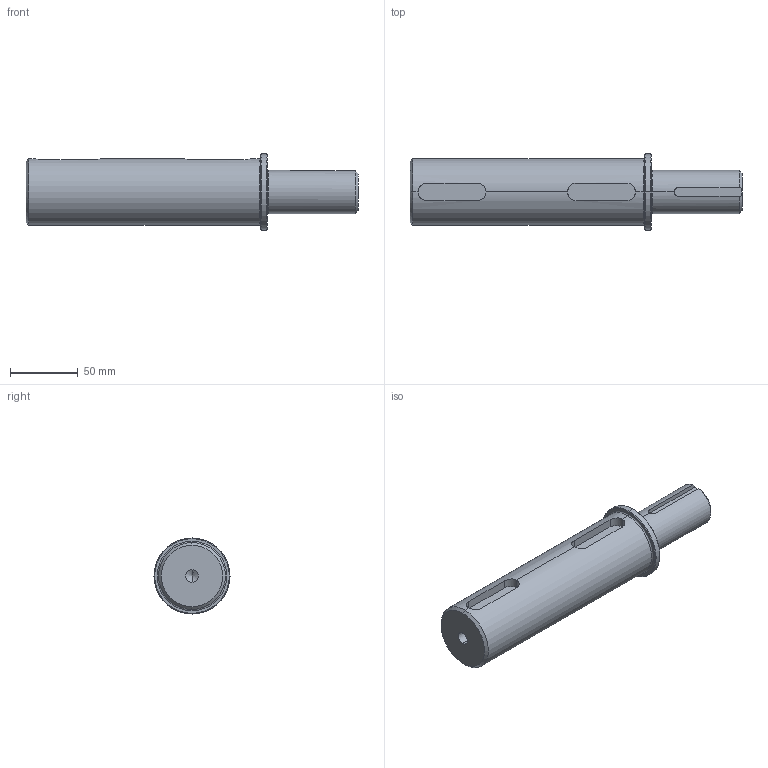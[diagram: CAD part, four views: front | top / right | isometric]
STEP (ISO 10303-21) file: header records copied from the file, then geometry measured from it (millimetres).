
FILE_DESCRIPTION (( 'STEP AP203' ), '1' );
FILE_NAME ('SSHdR262-OPS-S-1.25.STEP', '2023-01-07T03:41:30', ( '' ), ( '' ), 'SwSTEP 2.0', 'SolidWorks 2012', '' );
FILE_SCHEMA (( 'CONFIG_CONTROL_DESIGN' ));
Length unit declared in the file: millimetre
Products named in the file (1): SSHdR262-OPS-S-1.25
Bounding box: 244.5 x 56 x 56 mm (x, y, z)
Volume: 381984.6 mm3; surface area: 41260.2 mm2
Topology: 1 solids, 1 shells, 41 faces, 97 edges, 59 vertices
Faces by surface type: cylinder 15, plane 13, cone 9, torus 4
Entity records: 1432 total; most frequent: CARTESIAN_POINT 412, DIRECTION 205, ORIENTED_EDGE 190, EDGE_CURVE 95, AXIS2_PLACEMENT_3D 80, VERTEX_POINT 59, LINE 45, VECTOR 45
